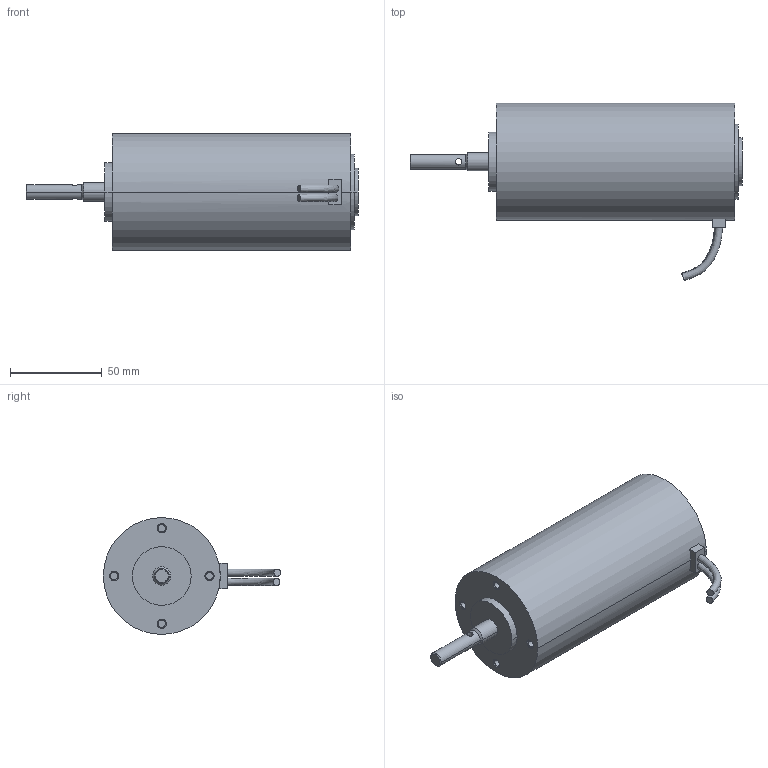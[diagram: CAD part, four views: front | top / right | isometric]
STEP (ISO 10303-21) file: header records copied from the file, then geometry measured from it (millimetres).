
FILE_DESCRIPTION(('STEP AP214'),'1');
FILE_NAME('Z:/TurboCAD/Motor/PGK/tmp0.STEP','2015-04-13T07:58:56',(' '),(' '),'Spatial InterOp 3D',' ',' ');
FILE_SCHEMA(('automotive_design'));
Length unit declared in the file: millimetre
Products named in the file (13): 3; 4; 2; 1; 5
Bounding box: 181 x 96.62 x 63.69 mm (x, y, z)
Volume: 423851.4 mm3; surface area: 37788.2 mm2
Topology: 1 solids, 13 shells, 65 faces, 163 edges, 122 vertices
Faces by surface type: cylinder 30, plane 21, cone 12, bspline 2
Entity records: 3707 total; most frequent: CARTESIAN_POINT 1233, DIRECTION 401, ORIENTED_EDGE 278, AXIS2_PLACEMENT_3D 170, EDGE_CURVE 163, VERTEX_POINT 122, CIRCLE 94, EDGE_LOOP 81
